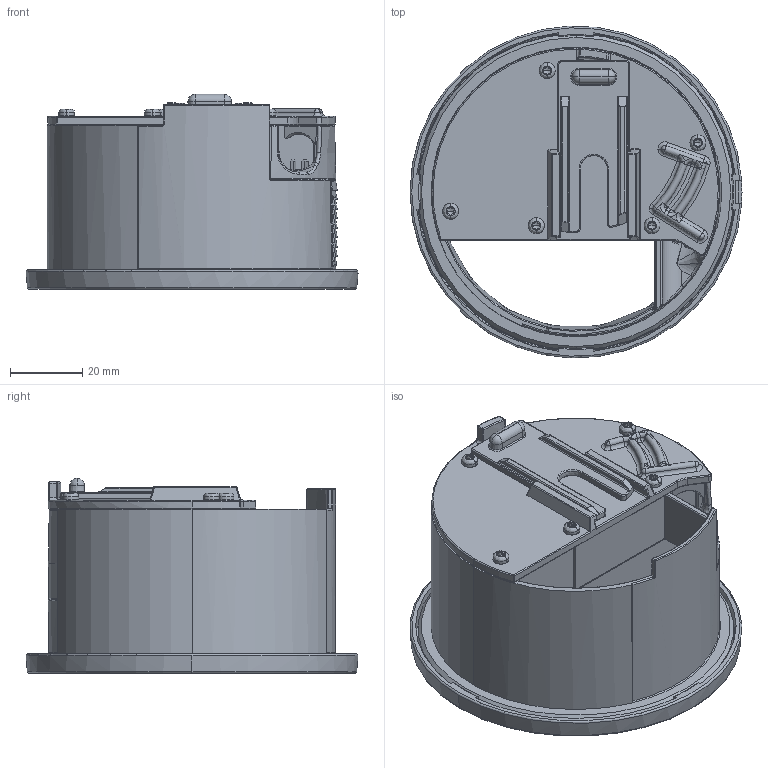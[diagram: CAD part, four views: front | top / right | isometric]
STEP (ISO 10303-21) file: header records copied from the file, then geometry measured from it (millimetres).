
FILE_DESCRIPTION (( 'STEP AP214' ), '1' );
FILE_NAME ('159273000900 Circle80.STEP', '2020-11-23T10:37:04', ( '' ), ( '' ), 'SwSTEP 2.0', 'SolidWorks 2017', '' );
FILE_SCHEMA (( 'AUTOMOTIVE_DESIGN' ));
Length unit declared in the file: millimetre
Products named in the file (1): 159273000900 Circle80
Bounding box: 91.81 x 91.79 x 54 mm (x, y, z)
Volume: 133709.6 mm3; surface area: 70743.2 mm2
Topology: 1 solids, 29 shells, 3921 faces, 10435 edges, 6567 vertices
Faces by surface type: plane 1448, bspline 1017, cylinder 977, cone 230, torus 171, sphere 78
Entity records: 378530 total; most frequent: CARTESIAN_POINT 290179, ORIENTED_EDGE 20708, DIRECTION 15273, EDGE_CURVE 10354, VERTEX_POINT 6553, AXIS2_PLACEMENT_3D 5239, VECTOR 4795, LINE 4795
